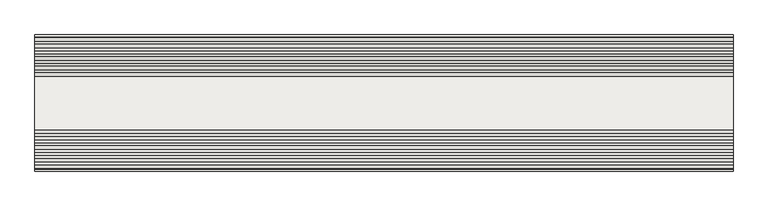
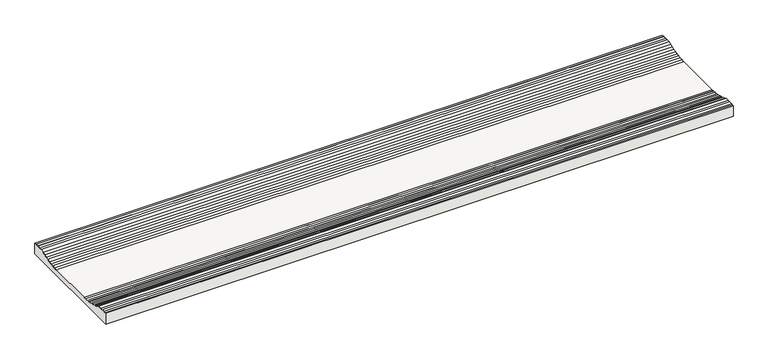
"""IFC4 building model written with IfcOpenShell, lengths in millimetres: slab geometry, ROSA GRES_204 : Pieza 204_Indugres_Indubeige_Tecno."""

from ifc_helpers import new_model, si_unit, point, frame, frame_2d, origin, place, context, project, spatial, polyline, circle_curve, trimmed, segment, composite_curve, outline, extrude, source, transform, mapped, element, save


def slab_c57b6997(model_context):
    return source(origin(), model_context, "Body", "SweptSolid", [
        extrude(outline(composite_curve([segment(polyline([(0.0, 0.0), (0.0, 22.8672484), (3.4834385, 22.8672484)]), True, "CONTINUOUS"), segment(trimmed(circle_curve(frame_2d((3.4834385, 24.9459193)), 2.078671), [point((3.4834385, 22.8672484))], [point((5.3933441, 24.1254722))], True, "CARTESIAN"), True, "CONTINUOUS"), segment(trimmed(circle_curve(frame_2d((8.4772441, 27.2443435)), 4.3860914), [point((5.3933441, 24.1254722))], [point((11.4768535, 24.0443215))], True, "CARTESIAN"), True, "CONTINUOUS"), segment(trimmed(circle_curve(frame_2d((14.4834385, 27.2619892)), 4.4037415), [point((11.4768535, 24.0443215))], [point((17.4838192, 24.0385354))], True, "CARTESIAN"), True, "CONTINUOUS"), segment(trimmed(circle_curve(frame_2d((20.4772441, 27.2443435)), 4.3860914), [point((17.4838192, 24.0385354))], [point((23.5481555, 24.1126825))], True, "CARTESIAN"), True, "CONTINUOUS"), segment(trimmed(circle_curve(frame_2d((27.5873515, 25.8222711)), 4.3860914), [point((23.5481555, 24.1126825))], [point((29.0929084, 21.702672))], True, "CARTESIAN"), True, "CONTINUOUS"), segment(trimmed(circle_curve(frame_2d((32.9910112, 23.7132919)), 4.3860914), [point((29.0929084, 21.702672))], [point((34.6740913, 19.6629784))], True, "CARTESIAN"), True, "CONTINUOUS"), segment(trimmed(circle_curve(frame_2d((38.5344705, 21.7451095)), 4.3860914), [point((34.6740913, 19.6629784))], [point((40.406127, 17.7784107))], True, "CARTESIAN"), True, "CONTINUOUS"), segment(trimmed(circle_curve(frame_2d((44.1065968, 20.1330489)), 4.3860914), [point((40.406127, 17.7784107))], [point((46.146977, 16.2504407))], True, "CARTESIAN"), True, "CONTINUOUS"), segment(trimmed(circle_curve(frame_2d((49.7914497, 18.690854)), 4.3860914), [point((46.146977, 16.2504407))], [point((52.0386105, 14.9241491))], True, "CARTESIAN"), True, "CONTINUOUS"), segment(trimmed(circle_curve(frame_2d((55.5496933, 17.5528551)), 4.3860914), [point((52.0386105, 14.9241491))], [point((57.8759715, 13.8344915))], True, "CARTESIAN"), True, "CONTINUOUS"), segment(trimmed(circle_curve(frame_2d((61.3099097, 16.563203)), 4.3860914), [point((57.8759715, 13.8344915))], [point((63.8574067, 12.9927609))], True, "CARTESIAN"), True, "CONTINUOUS"), segment(trimmed(circle_curve(frame_2d((67.1546539, 15.8851576)), 4.3860914), [point((63.8574067, 12.9927609))], [point((69.7580788, 12.3552884))], True, "CARTESIAN"), True, "CONTINUOUS"), segment(trimmed(circle_curve(frame_2d((72.9411902, 15.372837)), 4.3860914), [point((69.7580788, 12.3552884))], [point((75.6586011, 11.9299493))], True, "CARTESIAN"), True, "CONTINUOUS"), segment(polyline([(75.6586011, 11.9299493), (174.3413989, 11.9299493)]), True, "CONTINUOUS"), segment(trimmed(circle_curve(frame_2d((177.0588098, 15.372837)), 4.3860914), [point((174.3413989, 11.9299493))], [point((180.2419212, 12.3552884))], True, "CARTESIAN"), True, "CONTINUOUS"), segment(trimmed(circle_curve(frame_2d((182.8453461, 15.8851576)), 4.3860914), [point((180.2419212, 12.3552884))], [point((186.1425933, 12.9927609))], True, "CARTESIAN"), True, "CONTINUOUS"), segment(trimmed(circle_curve(frame_2d((188.6900903, 16.563203)), 4.3860914), [point((186.1425933, 12.9927609))], [point((192.1240285, 13.8344915))], True, "CARTESIAN"), True, "CONTINUOUS"), segment(trimmed(circle_curve(frame_2d((194.4503067, 17.5528551)), 4.3860914), [point((192.1240285, 13.8344915))], [point((197.9613895, 14.9241491))], True, "CARTESIAN"), True, "CONTINUOUS"), segment(trimmed(circle_curve(frame_2d((200.2085503, 18.690854)), 4.3860914), [point((197.9613895, 14.9241491))], [point((203.853023, 16.2504407))], True, "CARTESIAN"), True, "CONTINUOUS"), segment(trimmed(circle_curve(frame_2d((205.8934032, 20.1330489)), 4.3860914), [point((203.853023, 16.2504407))], [point((209.593873, 17.7784107))], True, "CARTESIAN"), True, "CONTINUOUS"), segment(trimmed(circle_curve(frame_2d((211.4655295, 21.7451095)), 4.3860914), [point((209.593873, 17.7784107))], [point((215.3259087, 19.6629784))], True, "CARTESIAN"), True, "CONTINUOUS"), segment(trimmed(circle_curve(frame_2d((217.0089888, 23.7132919)), 4.3860914), [point((215.3259087, 19.6629784))], [point((220.9070916, 21.702672))], True, "CARTESIAN"), True, "CONTINUOUS"), segment(trimmed(circle_curve(frame_2d((222.4126485, 25.8222711)), 4.3860914), [point((220.9070916, 21.702672))], [point((226.4518445, 24.1126825))], True, "CARTESIAN"), True, "CONTINUOUS"), segment(trimmed(circle_curve(frame_2d((229.5227559, 27.2443435)), 4.3860914), [point((226.4518445, 24.1126825))], [point((232.5161808, 24.0385354))], True, "CARTESIAN"), True, "CONTINUOUS"), segment(trimmed(circle_curve(frame_2d((235.5165615, 27.2619892)), 4.4037415), [point((232.5161808, 24.0385354))], [point((238.5231465, 24.0443215))], True, "CARTESIAN"), True, "CONTINUOUS"), segment(trimmed(circle_curve(frame_2d((241.5227559, 27.2443435)), 4.3860914), [point((238.5231465, 24.0443215))], [point((244.6066559, 24.1254722))], True, "CARTESIAN"), True, "CONTINUOUS"), segment(trimmed(circle_curve(frame_2d((246.5165615, 24.9459193)), 2.078671), [point((244.6066559, 24.1254722))], [point((246.5165615, 22.8672484))], True, "CARTESIAN"), True, "CONTINUOUS"), segment(polyline([(246.5165615, 22.8672484), (250.0, 22.8672484), (250.0, 0.0), (0.0, 0.0)]), True, "CONTINUOUS")], self_intersect=False)), frame((0.0, 0.0, 0.0), z_axis=(1.0, 0.0, 0.0), x_axis=(0.0, 1.0, 0.0)), (0.0, 0.0, 1.0), 1281.8784367),
    ])


if __name__ == "__main__":
    model = new_model("IFC4")
    model_context = context("Model", 3, world=origin())
    ifc_project = project(units=[si_unit("LENGTHUNIT", "METRE", prefix="MILLI")], contexts=[model_context])
    site = spatial("IfcSite", under=ifc_project)
    building = spatial("IfcBuilding", under=site)
    placement = place(None, origin())
    slab_shape = slab_c57b6997(model_context)
    element("IfcSlab", 1, ObjectType="ROSA GRES_204 : Pieza 204_Indugres_Indubeige_Tecno", at=placement, inside=building, context=model_context, shape_type="MappedRepresentation", body=[
        mapped(slab_shape, transform((0.0, 0.0, 0.0), x_axis=(1.0, 0.0, 0.0), y_axis=(0.0, 1.0, 0.0), z_axis=(0.0, 0.0, 1.0))),
    ])
    save(model, "model.ifc")
